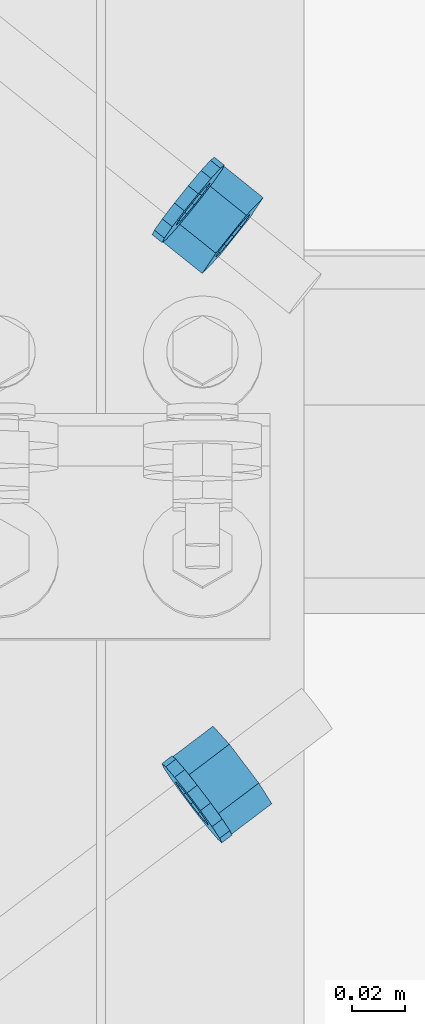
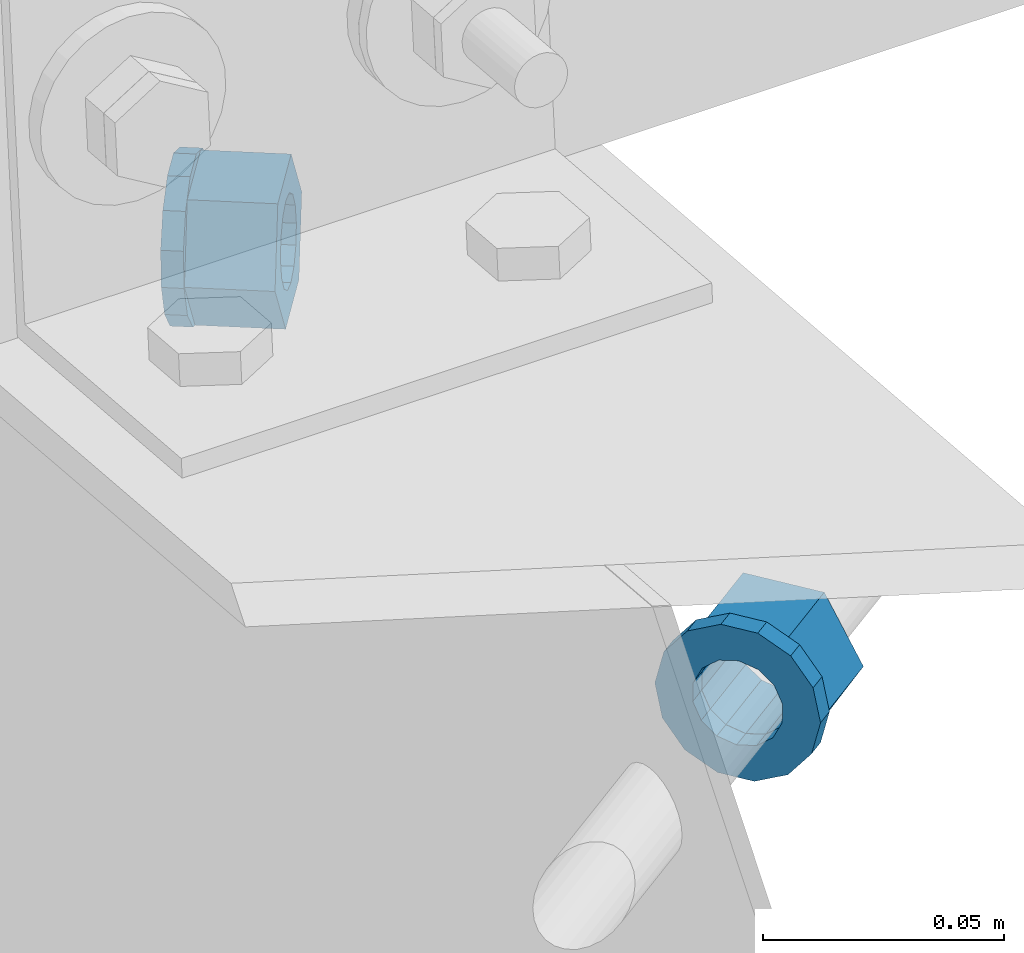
# One storey, part 38 of 185: 4 beams, 4 elements without a shape of their own.
"""IFC2X3 building model written with IfcOpenShell, lengths in millimetres."""

from ifc_helpers import new_model, si_unit, frame, origin_with_axes, place, context, subcontext, project, spatial, polyline, outline, extrude, material, type_object, element, aggregate, save


model = new_model("IFC2X3")

# Units and contexts
model_context = context("Model", 3, precision=1e-05, world=origin_with_axes())
body_context = subcontext(model_context, "Body", "Model", "MODEL_VIEW")
ifc_project = project(units=[si_unit("LENGTHUNIT", "METRE", prefix="MILLI"), si_unit("AREAUNIT", "SQUARE_METRE"), si_unit("VOLUMEUNIT", "CUBIC_METRE"), si_unit("MASSUNIT", "GRAM", prefix="KILO"), si_unit("TIMEUNIT", "SECOND"), si_unit("PLANEANGLEUNIT", "RADIAN"), si_unit("SOLIDANGLEUNIT", "STERADIAN"), si_unit("THERMODYNAMICTEMPERATUREUNIT", "DEGREE_CELSIUS"), si_unit("LUMINOUSINTENSITYUNIT", "LUMEN")], contexts=[model_context])

# Site, building, storey
site_placement = place(None, origin_with_axes())
site = spatial("IfcSite", under=ifc_project, at=site_placement, Name="Undefined", CompositionType="ELEMENT")
building_placement = place(site_placement, origin_with_axes())
building = spatial("IfcBuilding", under=site, at=building_placement, Name="Undefined", CompositionType="ELEMENT")
storey_placement = place(building_placement, origin_with_axes())
storey = spatial("IfcBuildingStorey", under=building, at=storey_placement, Name="Undefined", CompositionType="ELEMENT", Elevation=0.0)

# Assembly, beam
assembly_1_placement = place(storey_placement, origin_with_axes())
assembly_1 = element("IfcElementAssembly", 1, at=assembly_1_placement, inside=storey, Name="Steel Assembly", AssemblyPlace="NOTDEFINED", PredefinedType="RIGID_FRAME")
ifc_material = material(Name="STEEL/55")
beam_type_1 = type_object("IfcBeamType", Name="3/4_HEAVY_HEX_NUT", PredefinedType="NOTDEFINED")
beam_1_placement = place(assembly_1_placement, frame((14896.9172232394, 25273.256314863, 6394.03713579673), z_axis=(0.0397308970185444, 0.0307693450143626, 0.998736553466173), x_axis=(0.796162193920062, 0.602993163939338, -0.0502494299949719)))
beam_1 = element("IfcBeam", 2, at=beam_1_placement, type_object=beam_type_1, material=ifc_material, Name="3/4 H HEX NUT A563", ObjectType="3/4_HEAVY_HEX_NUT", context=body_context, shape_type="SweptSolid", body=[
    extrude(outline(polyline([(9.13000011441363, -15.810000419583), (-9.13000011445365, -15.810000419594), (-18.2600002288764, 1.54614099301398e-11), (-9.13000011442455, 15.8100004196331), (9.13000011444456, 15.8100004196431), (18.2600002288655, 3.36513039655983e-11), (9.13000011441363, -15.810000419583)]), holes=[polyline([(-8.06850066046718, 6.43441456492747), (-10.061255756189, 2.29641597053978), (-10.0612557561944, -2.29641597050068), (-8.06850066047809, -6.43441456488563), (-4.47768005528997, -9.29799844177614), (-1.09139364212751e-11, -10.3199996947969), (4.47768005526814, -9.29799844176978), (8.0685006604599, -6.43441456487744), (10.0612557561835, -2.29641597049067), (10.0612557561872, 2.2964159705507), (8.06850066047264, 6.43441456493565), (4.47768005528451, 9.29799844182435), (7.27595761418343e-12, 10.319999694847), (-4.47768005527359, 9.2979984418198), (-8.06850066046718, 6.43441456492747)])]), frame((19.0500000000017, 0.0, 2.58175642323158e-19), z_axis=(-1.0, 0.0, 0.0), x_axis=(0.0, -1.0, 0.0)), (0.0, 0.0, 1.0), 19.0),
])
aggregate(assembly_1, [beam_1])

assembly_2_placement = place(storey_placement, origin_with_axes())
assembly_2 = element("IfcElementAssembly", 3, at=assembly_2_placement, inside=storey, Name="Steel Assembly", AssemblyPlace="NOTDEFINED", PredefinedType="RIGID_FRAME")
beam_2_placement = place(assembly_2_placement, frame((14893.6227807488, 25495.1940457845, 6375.54232625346), z_axis=(0.0402831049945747, -0.0330138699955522, -0.998642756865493), x_axis=(0.778915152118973, -0.624963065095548, 0.0520802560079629)))
beam_2 = element("IfcBeam", 4, at=beam_2_placement, type_object=beam_type_1, material=ifc_material, Name="3/4 H HEX NUT A563", ObjectType="3/4_HEAVY_HEX_NUT", context=body_context, shape_type="SweptSolid", body=[
    extrude(outline(polyline([(9.13000011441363, -15.810000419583), (-9.13000011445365, -15.810000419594), (-18.2600002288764, 1.54614099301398e-11), (-9.13000011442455, 15.8100004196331), (9.13000011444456, 15.8100004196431), (18.2600002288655, 3.36513039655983e-11), (9.13000011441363, -15.810000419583)]), holes=[polyline([(-8.06850066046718, 6.43441456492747), (-10.061255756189, 2.29641597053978), (-10.0612557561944, -2.29641597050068), (-8.06850066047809, -6.43441456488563), (-4.47768005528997, -9.29799844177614), (-1.09139364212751e-11, -10.3199996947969), (4.47768005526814, -9.29799844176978), (8.0685006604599, -6.43441456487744), (10.0612557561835, -2.29641597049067), (10.0612557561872, 2.2964159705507), (8.06850066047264, 6.43441456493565), (4.47768005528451, 9.29799844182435), (7.27595761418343e-12, 10.319999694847), (-4.47768005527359, 9.2979984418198), (-8.06850066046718, 6.43441456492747)])]), frame((19.0500000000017, 0.0, 2.58175642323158e-19), z_axis=(-1.0, 0.0, 0.0), x_axis=(0.0, -1.0, 0.0)), (0.0, 0.0, 1.0), 19.1),
])
aggregate(assembly_2, [beam_2])

assembly_3_placement = place(storey_placement, origin_with_axes())
assembly_3 = element("IfcElementAssembly", 5, at=assembly_3_placement, inside=storey, Name="Steel Assembly", AssemblyPlace="NOTDEFINED", PredefinedType="RIGID_FRAME")
beam_type_2 = type_object("IfcBeamType", Name="3/4_WASHER", PredefinedType="NOTDEFINED")
beam_3_placement = place(assembly_3_placement, frame((14893.125500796, 25270.3845599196, 6394.2764487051), z_axis=(0.0397308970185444, 0.0307693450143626, 0.998736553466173), x_axis=(0.796162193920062, 0.602993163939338, -0.0502494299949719)))
beam_3 = element("IfcBeam", 6, at=beam_3_placement, type_object=beam_type_2, material=ifc_material, Name="3/4 WASHER F844", ObjectType="3/4_WASHER", context=body_context, shape_type="SweptSolid", body=[
    extrude(outline(polyline([(-11.6280845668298, -14.5811568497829), (-16.8030690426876, -8.09193156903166), (-18.649999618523, -4.54747350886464e-12), (-16.8030690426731, 8.09193156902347), (-11.6280845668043, 14.5811568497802), (-4.15001533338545, 18.1824051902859), (4.15001533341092, 18.1824051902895), (11.628084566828, 14.5811568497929), (16.8030690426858, 8.09193156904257), (18.6499996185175, 1.45519152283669e-11), (16.8030690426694, -8.09193156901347), (11.6280845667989, -14.5811568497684), (4.15001533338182, -18.182405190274), (-4.15001533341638, -18.1824051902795), (-11.6280845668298, -14.5811568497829)]), holes=[polyline([(-8.06850066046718, 6.43441456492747), (-10.061255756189, 2.29641597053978), (-10.0612557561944, -2.29641597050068), (-8.06850066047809, -6.43441456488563), (-4.47768005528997, -9.29799844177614), (-1.09139364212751e-11, -10.3199996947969), (4.47768005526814, -9.29799844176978), (8.0685006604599, -6.43441456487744), (10.0612557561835, -2.29641597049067), (10.0612557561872, 2.2964159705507), (8.06850066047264, 6.43441456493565), (4.47768005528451, 9.29799844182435), (7.27595761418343e-12, 10.319999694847), (-4.47768005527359, 9.2979984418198), (-8.06850066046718, 6.43441456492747)])]), frame((4.76250000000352, 2.6437185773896e-16, 5.6843418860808e-14), z_axis=(-1.0, 0.0, 0.0), x_axis=(0.0, -1.0, 0.0)), (0.0, 0.0, 1.0), 4.8),
])
aggregate(assembly_3, [beam_3])

assembly_4_placement = place(storey_placement, origin_with_axes())
assembly_4 = element("IfcElementAssembly", 7, at=assembly_4_placement, inside=storey, Name="Steel Assembly", AssemblyPlace="NOTDEFINED", PredefinedType="RIGID_FRAME")
beam_4_placement = place(assembly_4_placement, frame((14889.9131973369, 25498.1704323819, 6375.29429403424), z_axis=(0.0402831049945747, -0.0330138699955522, -0.998642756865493), x_axis=(0.778915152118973, -0.624963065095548, 0.0520802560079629)))
beam_4 = element("IfcBeam", 8, at=beam_4_placement, type_object=beam_type_2, material=ifc_material, Name="3/4 WASHER F844", ObjectType="3/4_WASHER", context=body_context, shape_type="SweptSolid", body=[
    extrude(outline(polyline([(-11.6280845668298, -14.5811568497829), (-16.8030690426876, -8.09193156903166), (-18.649999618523, -4.54747350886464e-12), (-16.8030690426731, 8.09193156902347), (-11.6280845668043, 14.5811568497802), (-4.15001533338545, 18.1824051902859), (4.15001533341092, 18.1824051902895), (11.628084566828, 14.5811568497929), (16.8030690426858, 8.09193156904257), (18.6499996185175, 1.45519152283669e-11), (16.8030690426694, -8.09193156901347), (11.6280845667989, -14.5811568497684), (4.15001533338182, -18.182405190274), (-4.15001533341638, -18.1824051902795), (-11.6280845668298, -14.5811568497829)]), holes=[polyline([(-8.06850066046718, 6.43441456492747), (-10.061255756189, 2.29641597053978), (-10.0612557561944, -2.29641597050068), (-8.06850066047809, -6.43441456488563), (-4.47768005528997, -9.29799844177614), (-1.09139364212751e-11, -10.3199996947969), (4.47768005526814, -9.29799844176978), (8.0685006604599, -6.43441456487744), (10.0612557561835, -2.29641597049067), (10.0612557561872, 2.2964159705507), (8.06850066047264, 6.43441456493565), (4.47768005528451, 9.29799844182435), (7.27595761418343e-12, 10.319999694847), (-4.47768005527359, 9.2979984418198), (-8.06850066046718, 6.43441456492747)])]), frame((4.76250000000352, 2.6437185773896e-16, 5.6843418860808e-14), z_axis=(-1.0, 0.0, 0.0), x_axis=(0.0, -1.0, 0.0)), (0.0, 0.0, 1.0), 4.8),
])
aggregate(assembly_4, [beam_4])

save(model, "model.ifc")
